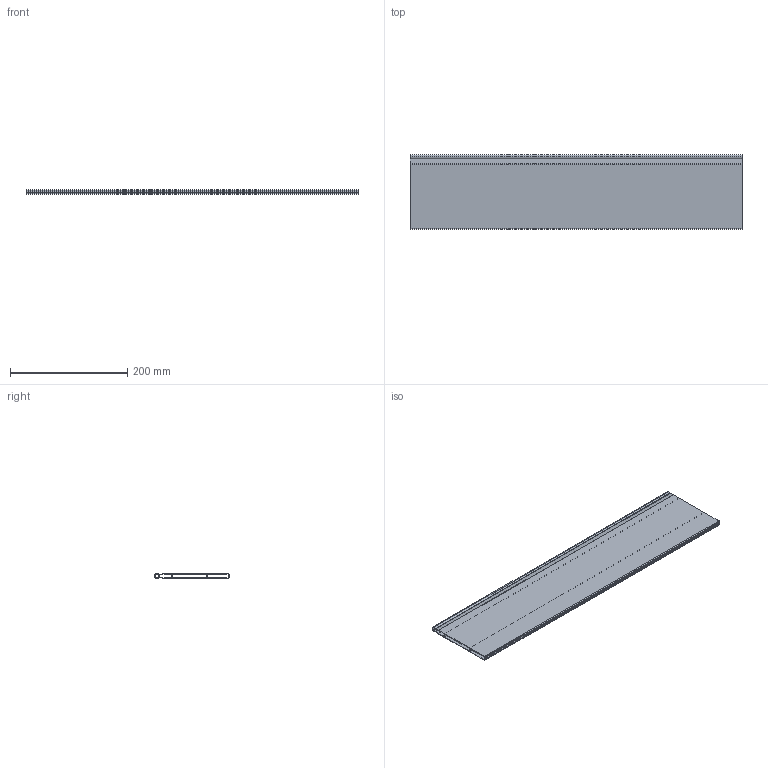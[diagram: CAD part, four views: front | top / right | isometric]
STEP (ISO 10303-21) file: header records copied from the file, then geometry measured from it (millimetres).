
FILE_DESCRIPTION (( 'STEP AP214' ), '1' );
FILE_NAME ('_Magic Optima Unterteilungsprofil DWD XP KAB 700.step', '2010-08-17T12:26:38', ( 'grass' ), ( '' ), 'SwSTEP 2.0', 'SolidWorks 2010', '' );
FILE_SCHEMA (( 'AUTOMOTIVE_DESIGN' ));
Length unit declared in the file: millimetre
Products named in the file (1): _Magic Optima Unterteilungsprofil DWD XP  KAB 700
Bounding box: 566 x 127.7 x 8.1 mm (x, y, z)
Volume: 198396.2 mm3; surface area: 307585.5 mm2
Topology: 1 solids, 1 shells, 39 faces, 111 edges, 74 vertices
Faces by surface type: plane 22, cylinder 17
Entity records: 1325 total; most frequent: CARTESIAN_POINT 225, DIRECTION 225, ORIENTED_EDGE 222, EDGE_CURVE 111, LINE 77, VECTOR 77, VERTEX_POINT 74, AXIS2_PLACEMENT_3D 74
